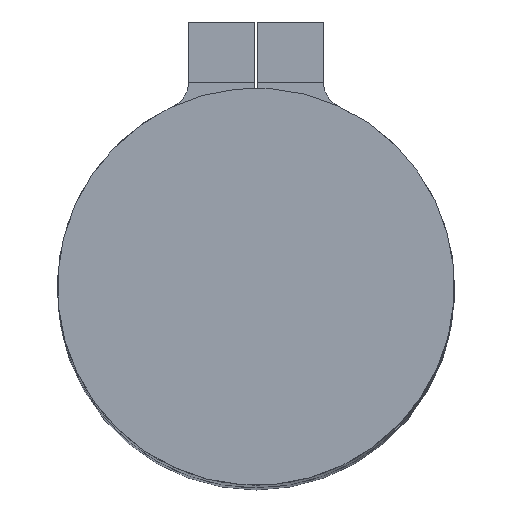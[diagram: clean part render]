
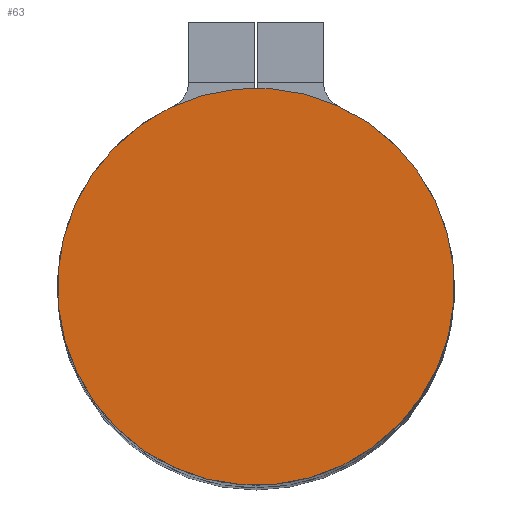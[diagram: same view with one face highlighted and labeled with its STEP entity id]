
A CAD part, top view. The second image highlights one B-rep face of the part: STEP entity #63.
In plain terms, the highlighted planar face has unit normal (0, 0, 1) as drawn and (0, 1, 0) by its records, which use the part's own axes.
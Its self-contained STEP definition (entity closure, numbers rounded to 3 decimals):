
#63 = ADVANCED_FACE ( 'NONE', ( #234 ), #474, .T. ) ;
#88 = EDGE_CURVE ( 'NONE', #1080, #942, #806, .T. ) ;
#184 = CARTESIAN_POINT ( 'NONE',  ( 0., 106.5, 0. ) ) ;
#234 = FACE_OUTER_BOUND ( 'NONE', #731, .T. ) ;
#263 = AXIS2_PLACEMENT_3D ( 'NONE', #184, #1130, #1009 ) ;
#320 = CARTESIAN_POINT ( 'NONE',  ( 0., 106.5, 7.5 ) ) ;
#336 = DIRECTION ( 'NONE',  ( 0., 0., 1. ) ) ;
#355 = CARTESIAN_POINT ( 'NONE',  ( 0., 106.5, -7.5 ) ) ;
#399 = DIRECTION ( 'NONE',  ( 0., -1., 0. ) ) ;
#410 = ORIENTED_EDGE ( 'NONE', *, *, #1088, .F. ) ;
#474 = PLANE ( 'NONE',  #485 ) ;
#485 = AXIS2_PLACEMENT_3D ( 'NONE', #1161, #1059, #336 ) ;
#584 = ORIENTED_EDGE ( 'NONE', *, *, #88, .F. ) ;
#731 = EDGE_LOOP ( 'NONE', ( #410, #584 ) ) ;
#732 = AXIS2_PLACEMENT_3D ( 'NONE', #1181, #399, #1174 ) ;
#739 = CIRCLE ( 'NONE', #263, 7.5 ) ;
#806 = CIRCLE ( 'NONE', #732, 7.5 ) ;
#942 = VERTEX_POINT ( 'NONE', #355 ) ;
#1009 = DIRECTION ( 'NONE',  ( 0., 0., -1. ) ) ;
#1059 = DIRECTION ( 'NONE',  ( 0., 1., 0. ) ) ;
#1080 = VERTEX_POINT ( 'NONE', #320 ) ;
#1088 = EDGE_CURVE ( 'NONE', #942, #1080, #739, .T. ) ;
#1130 = DIRECTION ( 'NONE',  ( 0., -1., 0. ) ) ;
#1161 = CARTESIAN_POINT ( 'NONE',  ( 0., 106.5, 0. ) ) ;
#1174 = DIRECTION ( 'NONE',  ( 0., 0., -1. ) ) ;
#1181 = CARTESIAN_POINT ( 'NONE',  ( 0., 106.5, 0. ) ) ;
